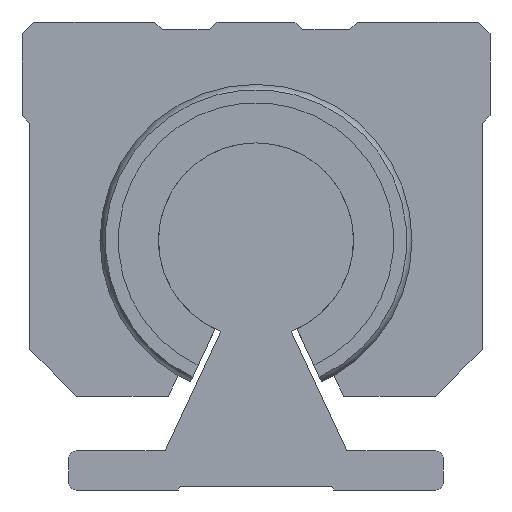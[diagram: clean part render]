
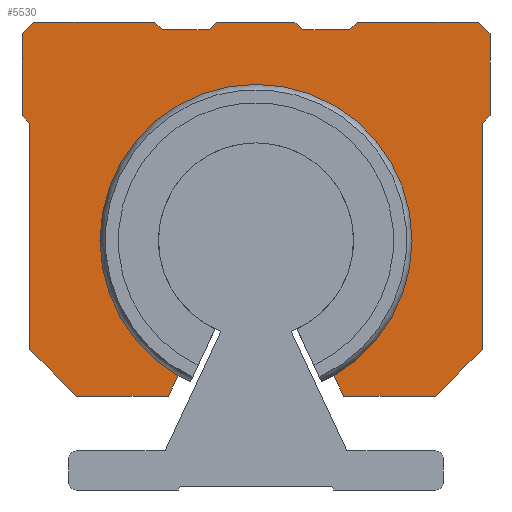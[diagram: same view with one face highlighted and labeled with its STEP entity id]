
A CAD part, left-side view. The second image highlights one B-rep face of the part: STEP entity #5530.
In plain terms, the highlighted planar face has unit normal (-1, 0, 0).
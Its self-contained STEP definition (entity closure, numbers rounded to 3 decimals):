
#4297=CARTESIAN_POINT('',(268.014,-10.,14.679));
#4298=VERTEX_POINT('',#4297);
#4305=CARTESIAN_POINT('',(268.014,10.,14.679));
#4306=VERTEX_POINT('',#4305);
#4307=CARTESIAN_POINT('',(268.014,0.,32.0));
#4308=DIRECTION('',(-1.0,0.0,0.0));
#4309=DIRECTION('',(0.0,-1.0,0.0));
#4310=AXIS2_PLACEMENT_3D('',#4307,#4308,#4309);
#4311=CIRCLE('',#4310,20.0);
#4312=EDGE_CURVE('',#4298,#4306,#4311,.T.);
#4480=CARTESIAN_POINT('',(268.014,-29.,18.));
#4481=VERTEX_POINT('',#4480);
#4488=CARTESIAN_POINT('',(268.014,-23.,12.));
#4489=VERTEX_POINT('',#4488);
#4490=CARTESIAN_POINT('',(268.014,-29.,18.));
#4491=DIRECTION('',(0.0,0.707,-0.707));
#4492=VECTOR('',#4491,8.485);
#4493=LINE('',#4490,#4492);
#4494=EDGE_CURVE('',#4481,#4489,#4493,.T.);
#4519=CARTESIAN_POINT('',(268.014,-29.,47.0));
#4520=VERTEX_POINT('',#4519);
#4527=CARTESIAN_POINT('',(268.014,-29.,47.0));
#4528=DIRECTION('',(0.0,0.0,-1.0));
#4529=VECTOR('',#4528,29.);
#4530=LINE('',#4527,#4529);
#4531=EDGE_CURVE('',#4520,#4481,#4530,.T.);
#4717=CARTESIAN_POINT('',(268.014,23.,12.));
#4718=VERTEX_POINT('',#4717);
#4725=CARTESIAN_POINT('',(268.014,29.,18.));
#4726=VERTEX_POINT('',#4725);
#4727=CARTESIAN_POINT('',(268.014,23.,12.));
#4728=DIRECTION('',(0.0,0.707,0.707));
#4729=VECTOR('',#4728,8.485);
#4730=LINE('',#4727,#4729);
#4731=EDGE_CURVE('',#4718,#4726,#4730,.T.);
#4749=CARTESIAN_POINT('',(268.014,11.249,12.));
#4750=VERTEX_POINT('',#4749);
#4757=CARTESIAN_POINT('',(268.014,11.249,12.));
#4758=DIRECTION('',(0.0,1.0,0.0));
#4759=VECTOR('',#4758,11.751);
#4760=LINE('',#4757,#4759);
#4761=EDGE_CURVE('',#4750,#4718,#4760,.T.);
#4771=CARTESIAN_POINT('',(268.014,-5.,60.0));
#4772=VERTEX_POINT('',#4771);
#4773=CARTESIAN_POINT('',(268.014,-6.,59.0));
#4774=VERTEX_POINT('',#4773);
#4775=CARTESIAN_POINT('',(268.014,-5.,60.0));
#4776=DIRECTION('',(0.0,-0.707,-0.707));
#4777=VECTOR('',#4776,1.414);
#4778=LINE('',#4775,#4777);
#4779=EDGE_CURVE('',#4772,#4774,#4778,.T.);
#4803=CARTESIAN_POINT('',(268.014,-12.,59.0));
#4804=VERTEX_POINT('',#4803);
#4805=CARTESIAN_POINT('',(268.014,-6.,59.0));
#4806=DIRECTION('',(0.0,-1.0,0.0));
#4807=VECTOR('',#4806,6.);
#4808=LINE('',#4805,#4807);
#4809=EDGE_CURVE('',#4774,#4804,#4808,.T.);
#4826=CARTESIAN_POINT('',(268.014,13.0,60.0));
#4827=VERTEX_POINT('',#4826);
#4828=CARTESIAN_POINT('',(268.014,12.,59.0));
#4829=VERTEX_POINT('',#4828);
#4830=CARTESIAN_POINT('',(268.014,13.0,60.0));
#4831=DIRECTION('',(0.0,-0.707,-0.707));
#4832=VECTOR('',#4831,1.414);
#4833=LINE('',#4830,#4832);
#4834=EDGE_CURVE('',#4827,#4829,#4833,.T.);
#4858=CARTESIAN_POINT('',(268.014,6.,59.0));
#4859=VERTEX_POINT('',#4858);
#4860=CARTESIAN_POINT('',(268.014,12.,59.0));
#4861=DIRECTION('',(0.0,-1.0,0.0));
#4862=VECTOR('',#4861,6.);
#4863=LINE('',#4860,#4862);
#4864=EDGE_CURVE('',#4829,#4859,#4863,.T.);
#4881=CARTESIAN_POINT('',(268.014,5.,60.0));
#4882=VERTEX_POINT('',#4881);
#4883=CARTESIAN_POINT('',(268.014,6.,59.0));
#4884=DIRECTION('',(0.0,-0.707,0.707));
#4885=VECTOR('',#4884,1.414);
#4886=LINE('',#4883,#4885);
#4887=EDGE_CURVE('',#4859,#4882,#4886,.T.);
#4905=CARTESIAN_POINT('',(268.014,-13.,60.0));
#4906=VERTEX_POINT('',#4905);
#4907=CARTESIAN_POINT('',(268.014,-12.,59.0));
#4908=DIRECTION('',(0.0,-0.707,0.707));
#4909=VECTOR('',#4908,1.414);
#4910=LINE('',#4907,#4909);
#4911=EDGE_CURVE('',#4804,#4906,#4910,.T.);
#4929=CARTESIAN_POINT('',(268.014,29.,47.0));
#4930=VERTEX_POINT('',#4929);
#4931=CARTESIAN_POINT('',(268.014,30.0,48.));
#4932=VERTEX_POINT('',#4931);
#4933=CARTESIAN_POINT('',(268.014,29.,47.0));
#4934=DIRECTION('',(0.0,0.707,0.707));
#4935=VECTOR('',#4934,1.414);
#4936=LINE('',#4933,#4935);
#4937=EDGE_CURVE('',#4930,#4932,#4936,.T.);
#4960=CARTESIAN_POINT('',(268.014,-30.0,48.));
#4961=VERTEX_POINT('',#4960);
#4962=CARTESIAN_POINT('',(268.014,-30.0,48.));
#4963=DIRECTION('',(0.0,0.707,-0.707));
#4964=VECTOR('',#4963,1.414);
#4965=LINE('',#4962,#4964);
#4966=EDGE_CURVE('',#4961,#4520,#4965,.T.);
#4985=CARTESIAN_POINT('',(268.014,30.0,58.5));
#4986=VERTEX_POINT('',#4985);
#4993=CARTESIAN_POINT('',(268.014,28.5,60.0));
#4994=VERTEX_POINT('',#4993);
#4995=CARTESIAN_POINT('',(268.014,30.0,58.5));
#4996=DIRECTION('',(0.0,-0.707,0.707));
#4997=VECTOR('',#4996,2.121);
#4998=LINE('',#4995,#4997);
#4999=EDGE_CURVE('',#4986,#4994,#4998,.T.);
#5018=CARTESIAN_POINT('',(268.014,30.0,48.));
#5019=DIRECTION('',(0.0,0.0,1.0));
#5020=VECTOR('',#5019,10.5);
#5021=LINE('',#5018,#5020);
#5022=EDGE_CURVE('',#4932,#4986,#5021,.T.);
#5033=CARTESIAN_POINT('',(268.014,-28.5,60.0));
#5034=VERTEX_POINT('',#5033);
#5041=CARTESIAN_POINT('',(268.014,-30.0,58.5));
#5042=VERTEX_POINT('',#5041);
#5043=CARTESIAN_POINT('',(268.014,-28.5,60.0));
#5044=DIRECTION('',(0.0,-0.707,-0.707));
#5045=VECTOR('',#5044,2.121);
#5046=LINE('',#5043,#5045);
#5047=EDGE_CURVE('',#5034,#5042,#5046,.T.);
#5066=CARTESIAN_POINT('',(268.014,-13.,60.0));
#5067=DIRECTION('',(0.0,-1.0,0.0));
#5068=VECTOR('',#5067,15.5);
#5069=LINE('',#5066,#5068);
#5070=EDGE_CURVE('',#4906,#5034,#5069,.T.);
#5403=CARTESIAN_POINT('',(268.014,29.,18.));
#5404=DIRECTION('',(0.0,0.0,1.0));
#5405=VECTOR('',#5404,29.);
#5406=LINE('',#5403,#5405);
#5407=EDGE_CURVE('',#4726,#4930,#5406,.T.);
#5427=CARTESIAN_POINT('',(268.014,10.,14.679));
#5428=DIRECTION('',(0.0,0.423,-0.906));
#5429=VECTOR('',#5428,2.956);
#5430=LINE('',#5427,#5429);
#5431=EDGE_CURVE('',#4306,#4750,#5430,.T.);
#5443=CARTESIAN_POINT('',(268.014,-11.249,12.));
#5444=VERTEX_POINT('',#5443);
#5451=CARTESIAN_POINT('',(268.014,-11.249,12.));
#5452=DIRECTION('',(0.0,0.423,0.906));
#5453=VECTOR('',#5452,2.956);
#5454=LINE('',#5451,#5453);
#5455=EDGE_CURVE('',#5444,#4298,#5454,.T.);
#5473=CARTESIAN_POINT('',(268.014,-23.,12.));
#5474=DIRECTION('',(0.0,1.0,0.0));
#5475=VECTOR('',#5474,11.751);
#5476=LINE('',#5473,#5475);
#5477=EDGE_CURVE('',#4489,#5444,#5476,.T.);
#5484=CARTESIAN_POINT('',(268.014,0.,36.472));
#5485=DIRECTION('',(1.0,0.0,0.0));
#5486=DIRECTION('',(0.0,0.0,-1.0));
#5487=AXIS2_PLACEMENT_3D('',#5484,#5485,#5486);
#5488=PLANE('',#5487);
#5489=ORIENTED_EDGE('',*,*,#4494,.F.);
#5490=ORIENTED_EDGE('',*,*,#4531,.F.);
#5491=ORIENTED_EDGE('',*,*,#4966,.F.);
#5492=CARTESIAN_POINT('',(268.014,-30.0,58.5));
#5493=DIRECTION('',(0.0,0.0,-1.0));
#5494=VECTOR('',#5493,10.5);
#5495=LINE('',#5492,#5494);
#5496=EDGE_CURVE('',#5042,#4961,#5495,.T.);
#5497=ORIENTED_EDGE('',*,*,#5496,.F.);
#5498=ORIENTED_EDGE('',*,*,#5047,.F.);
#5499=ORIENTED_EDGE('',*,*,#5070,.F.);
#5500=ORIENTED_EDGE('',*,*,#4911,.F.);
#5501=ORIENTED_EDGE('',*,*,#4809,.F.);
#5502=ORIENTED_EDGE('',*,*,#4779,.F.);
#5503=CARTESIAN_POINT('',(268.014,5.,60.0));
#5504=DIRECTION('',(0.0,-1.0,0.0));
#5505=VECTOR('',#5504,10.);
#5506=LINE('',#5503,#5505);
#5507=EDGE_CURVE('',#4882,#4772,#5506,.T.);
#5508=ORIENTED_EDGE('',*,*,#5507,.F.);
#5509=ORIENTED_EDGE('',*,*,#4887,.F.);
#5510=ORIENTED_EDGE('',*,*,#4864,.F.);
#5511=ORIENTED_EDGE('',*,*,#4834,.F.);
#5512=CARTESIAN_POINT('',(268.014,28.5,60.0));
#5513=DIRECTION('',(0.0,-1.0,0.0));
#5514=VECTOR('',#5513,15.5);
#5515=LINE('',#5512,#5514);
#5516=EDGE_CURVE('',#4994,#4827,#5515,.T.);
#5517=ORIENTED_EDGE('',*,*,#5516,.F.);
#5518=ORIENTED_EDGE('',*,*,#4999,.F.);
#5519=ORIENTED_EDGE('',*,*,#5022,.F.);
#5520=ORIENTED_EDGE('',*,*,#4937,.F.);
#5521=ORIENTED_EDGE('',*,*,#5407,.F.);
#5522=ORIENTED_EDGE('',*,*,#4731,.F.);
#5523=ORIENTED_EDGE('',*,*,#4761,.F.);
#5524=ORIENTED_EDGE('',*,*,#5431,.F.);
#5525=ORIENTED_EDGE('',*,*,#4312,.F.);
#5526=ORIENTED_EDGE('',*,*,#5455,.F.);
#5527=ORIENTED_EDGE('',*,*,#5477,.F.);
#5528=EDGE_LOOP('',(#5489,#5490,#5491,#5497,#5498,#5499,#5500,#5501,#5502,#5508,#5509,#5510,#5511,#5517,#5518,#5519,#5520,#5521,#5522,#5523,#5524,#5525,#5526,#5527));
#5529=FACE_OUTER_BOUND('',#5528,.T.);
#5530=ADVANCED_FACE('',(#5529),#5488,.F.);
